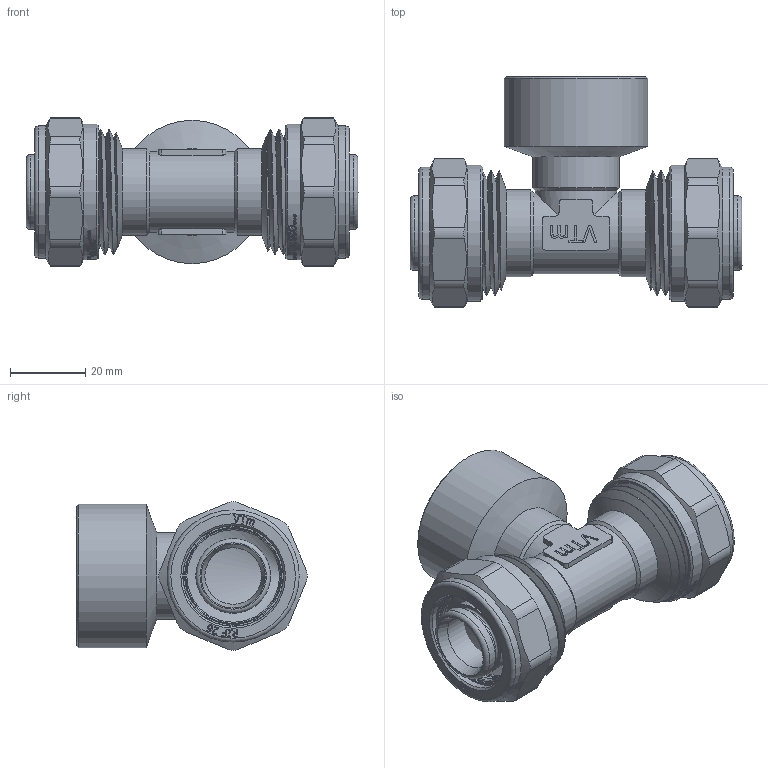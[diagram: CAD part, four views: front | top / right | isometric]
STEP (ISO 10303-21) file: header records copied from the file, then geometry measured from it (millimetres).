
FILE_DESCRIPTION(/* description */ (''),/* implementation_level */ '2;1');
FILE_NAME(/* name */ 'E:\Артём\00000\Работа удаленка\Обжимные фитинги\VTm.332.N.260626.stp',/* time_stamp */ '2020-07-08T14:00:30+03:00',/* author */ ('BeN_GaN'),/* organization */ (''),/* preprocessor_version */ 'ST-DEVELOPER v18',/* originating_system */ 'Autodesk Inventor 2020',/* authorisation */ '');
FILE_SCHEMA (('AUTOMOTIVE_DESIGN { 1 0 10303 214 3 1 1 }'));
Length unit declared in the file: millimetre
Products named in the file (1): VTm.332.N.260626
Bounding box: 88 x 61.19 x 39.39 mm (x, y, z)
Volume: 45974.1 mm3; surface area: 37662.8 mm2
Topology: 3 solids, 3 shells, 1436 faces, 4092 edges, 2769 vertices
Faces by surface type: bspline 768, plane 394, cylinder 188, torus 48, cone 38
Full cylindrical faces by diameter (mm): 15 x1, 17 x1, 17.4 x4, 19.8 x10, 21.5 x2, 23 x3, 24.516 x8, 25.435 x10, 26.2 x2, 26.7 x2, 28.5 x2, 28.7 x8, 30.3 x5, 30.5 x4, 33.3 x2, 34.9 x6, 35 x2, 36 x2, 38 x1
Entity records: 64318 total; most frequent: CARTESIAN_POINT 31873, ORIENTED_EDGE 8186, DIRECTION 4289, EDGE_CURVE 4093, VERTEX_POINT 2770, LINE 1737, VECTOR 1737, B_SPLINE_CURVE_WITH_KNOTS 1717
